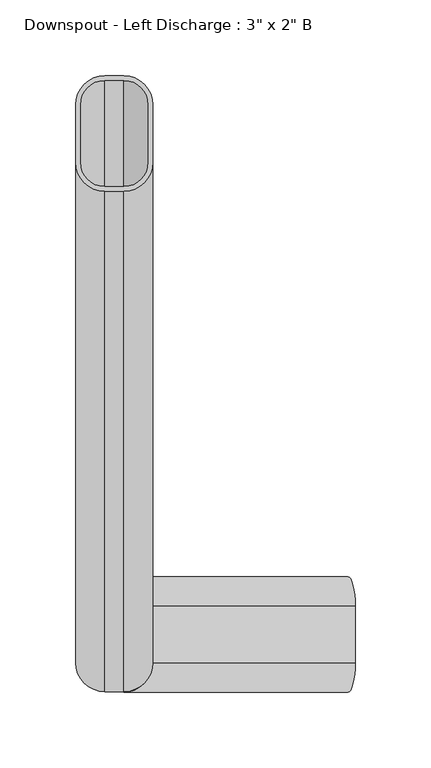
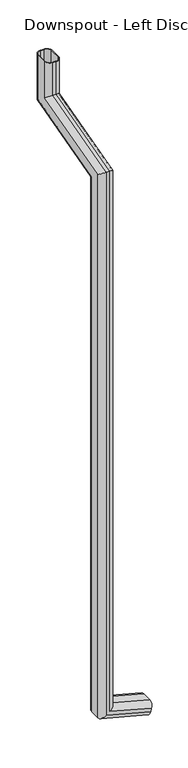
"""IFC4 building model written with IfcOpenShell, lengths in millimetres: proxy geometry."""

from ifc_helpers import new_model, si_unit, frame, origin, place, context, project, spatial, polyline, circle_curve, ellipse_curve, source, transform, mapped, element, save
from ifc_brep_helpers import plane_surface, cylinder_surface, revolved_surface, advanced_brep


def proxy_0893bcb6(model_context):
    return source(origin(), model_context, "Body", "AdvancedBrep", [
        advanced_brep(
        [(158.9740037, 184.15, 176.934516), (154.0435009, 165.1, 158.533629), (150.7564991, 165.1, 146.266371), (145.8259963, 184.15, 127.865484), (145.8259963, 222.25, 127.865484), (150.7564991, 241.3, 146.266371), (154.0435009, 241.3, 158.533629), (158.9740037, 222.25, 176.934516), (158.1522533, 184.15, 173.8677015), (158.1522533, 222.25, 173.8677015), (154.0435009, 238.125, 158.533629), (150.7564991, 238.125, 146.266371), (146.6477467, 222.25, 130.9322985), (146.6477467, 184.15, 130.9322985), (150.7564991, 168.275, 146.266371), (154.0435009, 168.275, 158.533629), (6.35, 165.1, 198.1079833), (25.4, 184.15, 212.7255624), (25.4, 184.15, 2212.1407558), (6.35, 165.1, 2226.7583349), (-25.4, 184.15, 173.7453514), (-6.35, 165.1, 188.3629306), (-6.35, 165.1, 2226.7583349), (-25.4, 184.15, 2212.1407558), (-25.4, 222.25, 173.7453514), (-25.4, 514.35, 2300.6175791), (-25.4, 514.35, 2438.4), (-25.4, 552.45, 2438.4), (-25.4, 552.45, 2271.3824209), (-25.4, 222.25, 2182.9055975), (-6.35, 241.3, 188.3629306), (-6.35, 241.3, 2168.2880184), (25.4, 222.25, 212.7255624), (6.35, 241.3, 198.1079833), (6.35, 241.3, 2168.2880184), (25.4, 222.25, 2182.9055975), (25.4, 552.45, 2271.3824209), (25.4, 552.45, 2438.4), (25.4, 514.35, 2438.4), (25.4, 514.35, 2300.6175791), (22.225, 222.25, 210.2892992), (22.225, 184.15, 210.2892992), (22.225, 184.15, 2212.1407558), (22.225, 514.35, 2300.6175791), (22.225, 514.35, 2438.4), (22.225, 552.45, 2438.4), (22.225, 552.45, 2271.3824209), (22.225, 222.25, 2182.9055975), (6.35, 238.125, 198.1079833), (6.35, 238.125, 2170.7242816), (-22.225, 222.25, 176.1816146), (-6.35, 238.125, 188.3629306), (-6.35, 238.125, 2170.7242816), (-22.225, 222.25, 2182.9055975), (-22.225, 184.15, 176.1816146), (-22.225, 552.45, 2271.3824209), (-22.225, 552.45, 2438.4), (-22.225, 514.35, 2438.4), (-22.225, 514.35, 2300.6175791), (-22.225, 184.15, 2212.1407558), (-6.35, 168.275, 188.3629306), (-6.35, 168.275, 2224.3220717), (6.35, 168.275, 198.1079833), (6.35, 168.275, 2224.3220717), (6.35, 495.3, 2315.2351582), (-6.35, 495.3, 2315.2351582), (-6.35, 571.5, 2256.7648418), (6.35, 571.5, 2256.7648418), (6.35, 568.325, 2259.2011049), (-6.35, 568.325, 2259.2011049), (-6.35, 498.475, 2312.7988951), (6.35, 498.475, 2312.7988951), (6.35, 571.5, 2438.4), (-6.35, 571.5, 2438.4), (-6.35, 495.3, 2438.4), (6.35, 495.3, 2438.4), (6.35, 498.475, 2438.4), (-6.35, 498.475, 2438.4), (-6.35, 568.325, 2438.4), (6.35, 568.325, 2438.4)],
        [
            (0, 1, circle_curve(frame((154.0435009, 184.15, 158.533629), z_axis=(0.9659258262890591, 0.0, -0.25881904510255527), x_axis=(0.0, -1.0, 0.0)), 19.05)),
            (1, 2),
            (2, 3, circle_curve(frame((150.7564991, 184.15, 146.266371), z_axis=(0.9659258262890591, 0.0, -0.25881904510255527), x_axis=(0.0, -1.0, 0.0)), 19.05)),
            (3, 4),
            (4, 5, circle_curve(frame((150.7564991, 222.25, 146.266371), z_axis=(0.9659258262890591, 0.0, -0.25881904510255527), x_axis=(0.0, -1.0, 0.0)), 19.05)),
            (5, 6),
            (6, 7, circle_curve(frame((154.0435009, 222.25, 158.533629), z_axis=(0.9659258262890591, 0.0, -0.25881904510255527), x_axis=(0.0, -1.0, 0.0)), 19.05)),
            (7, 0),
            (8, 9),
            (9, 10, circle_curve(frame((154.0435009, 222.25, 158.533629), z_axis=(-0.9659258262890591, 0.0, 0.25881904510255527), x_axis=(0.0, -1.0, 0.0)), 15.875)),
            (10, 11),
            (11, 12, circle_curve(frame((150.7564991, 222.25, 146.266371), z_axis=(-0.9659258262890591, 0.0, 0.25881904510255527), x_axis=(0.0, -1.0, 0.0)), 15.875)),
            (12, 13),
            (13, 14, circle_curve(frame((150.7564991, 184.15, 146.266371), z_axis=(-0.9659258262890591, 0.0, 0.25881904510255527), x_axis=(0.0, -1.0, 0.0)), 15.875)),
            (14, 15),
            (15, 8, circle_curve(frame((154.0435009, 184.15, 158.533629), z_axis=(-0.9659258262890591, 0.0, 0.25881904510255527), x_axis=(0.0, -1.0, 0.0)), 15.875)),
            (16, 17, ellipse_curve(frame((6.35, 184.15, 198.1079833), z_axis=(-0.6087614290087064, 0.0, 0.793353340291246), x_axis=(-0.7933533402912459, 0.0, -0.6087614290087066)), 24.0119995, 19.05)),
            (17, 18),
            (18, 19, ellipse_curve(frame((6.35, 184.15, 2212.1407558), z_axis=(0.0, -0.6087614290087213, -0.7933533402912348), x_axis=(0.0, 0.7933533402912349, -0.608761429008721)), 24.0119995, 19.05)),
            (19, 16),
            (20, 21, ellipse_curve(frame((-6.35, 184.15, 188.3629306), z_axis=(-0.6087614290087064, 0.0, 0.793353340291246), x_axis=(-0.7933533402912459, 0.0, -0.6087614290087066)), 24.0119995, 19.05)),
            (21, 22),
            (22, 23, ellipse_curve(frame((-6.35, 184.15, 2212.1407558), z_axis=(0.0, -0.6087614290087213, -0.7933533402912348), x_axis=(0.0, 0.7933533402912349, -0.608761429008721)), 24.0119995, 19.05)),
            (23, 20),
            (24, 20),
            (23, 25),
            (25, 26),
            (26, 27),
            (27, 28),
            (28, 29),
            (29, 24),
            (30, 24, ellipse_curve(frame((-6.35, 222.25, 188.3629306), z_axis=(-0.6087614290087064, 0.0, 0.793353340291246), x_axis=(-0.7933533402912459, 0.0, -0.6087614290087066)), 24.0119995, 19.05)),
            (29, 31, ellipse_curve(frame((-6.35, 222.25, 2182.9055975), z_axis=(0.0, -0.6087614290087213, -0.7933533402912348), x_axis=(0.0, 0.7933533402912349, -0.608761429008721)), 24.0119995, 19.05)),
            (31, 30),
            (32, 33, ellipse_curve(frame((6.35, 222.25, 198.1079833), z_axis=(-0.6087614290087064, 0.0, 0.793353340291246), x_axis=(-0.7933533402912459, 0.0, -0.6087614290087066)), 24.0119995, 19.05)),
            (33, 34),
            (34, 35, ellipse_curve(frame((6.35, 222.25, 2182.9055975), z_axis=(0.0, -0.6087614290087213, -0.7933533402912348), x_axis=(0.0, 0.7933533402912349, -0.608761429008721)), 24.0119995, 19.05)),
            (35, 32),
            (17, 32),
            (35, 36),
            (36, 37),
            (37, 38),
            (38, 39),
            (39, 18),
            (40, 41),
            (41, 42),
            (42, 43),
            (43, 44),
            (44, 45),
            (45, 46),
            (46, 47),
            (47, 40),
            (48, 40, ellipse_curve(frame((6.35, 222.25, 198.1079833), z_axis=(0.6087614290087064, 0.0, -0.793353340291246), x_axis=(0.7933533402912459, 0.0, 0.6087614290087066)), 20.0099996, 15.875)),
            (47, 49, ellipse_curve(frame((6.35, 222.25, 2182.9055975), z_axis=(0.0, 0.6087614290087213, 0.7933533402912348), x_axis=(0.0, -0.7933533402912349, 0.608761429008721)), 20.0099996, 15.875)),
            (49, 48),
            (50, 51, ellipse_curve(frame((-6.35, 222.25, 188.3629306), z_axis=(0.6087614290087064, 0.0, -0.793353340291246), x_axis=(0.7933533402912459, 0.0, 0.6087614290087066)), 20.0099996, 15.875)),
            (51, 52),
            (52, 53, ellipse_curve(frame((-6.35, 222.25, 2182.9055975), z_axis=(0.0, 0.6087614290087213, 0.7933533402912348), x_axis=(0.0, -0.7933533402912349, 0.608761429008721)), 20.0099996, 15.875)),
            (53, 50),
            (54, 50),
            (53, 55),
            (55, 56),
            (56, 57),
            (57, 58),
            (58, 59),
            (59, 54),
            (60, 54, ellipse_curve(frame((-6.35, 184.15, 188.3629306), z_axis=(0.6087614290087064, 0.0, -0.793353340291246), x_axis=(0.7933533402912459, 0.0, 0.6087614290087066)), 20.0099996, 15.875)),
            (59, 61, ellipse_curve(frame((-6.35, 184.15, 2212.1407558), z_axis=(0.0, 0.6087614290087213, 0.7933533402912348), x_axis=(0.0, -0.7933533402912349, 0.608761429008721)), 20.0099996, 15.875)),
            (61, 60),
            (41, 62, ellipse_curve(frame((6.35, 184.15, 198.1079833), z_axis=(0.6087614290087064, 0.0, -0.793353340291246), x_axis=(0.7933533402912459, 0.0, 0.6087614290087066)), 20.0099996, 15.875)),
            (62, 63),
            (63, 42, ellipse_curve(frame((6.35, 184.15, 2212.1407558), z_axis=(0.0, 0.6087614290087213, 0.7933533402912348), x_axis=(0.0, -0.7933533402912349, 0.608761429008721)), 20.0099996, 15.875)),
            (39, 64, ellipse_curve(frame((6.35, 514.35, 2300.6175791), z_axis=(0.0, -0.6087614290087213, -0.7933533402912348), x_axis=(0.0, -0.7933533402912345, 0.6087614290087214)), 24.0119995, 19.05)),
            (64, 19),
            (22, 19),
            (64, 65),
            (65, 22),
            (65, 25, ellipse_curve(frame((-6.35, 514.35, 2300.6175791), z_axis=(0.0, -0.6087614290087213, -0.7933533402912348), x_axis=(0.0, -0.7933533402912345, 0.6087614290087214)), 24.0119995, 19.05)),
            (28, 66, ellipse_curve(frame((-6.35, 552.45, 2271.3824209), z_axis=(0.0, -0.6087614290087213, -0.7933533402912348), x_axis=(0.0, -0.7933533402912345, 0.6087614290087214)), 24.0119995, 19.05)),
            (66, 31),
            (34, 31),
            (66, 67),
            (67, 34),
            (67, 36, ellipse_curve(frame((6.35, 552.45, 2271.3824209), z_axis=(0.0, -0.6087614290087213, -0.7933533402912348), x_axis=(0.0, -0.7933533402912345, 0.6087614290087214)), 24.0119995, 19.05)),
            (46, 68, ellipse_curve(frame((6.35, 552.45, 2271.3824209), z_axis=(0.0, 0.6087614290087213, 0.7933533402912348), x_axis=(0.0, 0.7933533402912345, -0.6087614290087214)), 20.0099996, 15.875)),
            (68, 49),
            (52, 49),
            (68, 69),
            (69, 52),
            (69, 55, ellipse_curve(frame((-6.35, 552.45, 2271.3824209), z_axis=(0.0, 0.6087614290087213, 0.7933533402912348), x_axis=(0.0, 0.7933533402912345, -0.6087614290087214)), 20.0099996, 15.875)),
            (58, 70, ellipse_curve(frame((-6.35, 514.35, 2300.6175791), z_axis=(0.0, 0.6087614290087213, 0.7933533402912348), x_axis=(0.0, 0.7933533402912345, -0.6087614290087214)), 20.0099996, 15.875)),
            (70, 61),
            (63, 61),
            (70, 71),
            (71, 63),
            (71, 43, ellipse_curve(frame((6.35, 514.35, 2300.6175791), z_axis=(0.0, 0.6087614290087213, 0.7933533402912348), x_axis=(0.0, 0.7933533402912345, -0.6087614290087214)), 20.0099996, 15.875)),
            (37, 72, circle_curve(frame((6.35, 552.45, 2438.4), z_axis=(0.0, 0.0, 1.0), x_axis=(0.0, -1.0, 0.0)), 19.05)),
            (72, 73),
            (73, 27, circle_curve(frame((-6.35, 552.45, 2438.4), z_axis=(0.0, 0.0, 1.0), x_axis=(0.0, -1.0, 0.0)), 19.05)),
            (26, 74, circle_curve(frame((-6.35, 514.35, 2438.4), z_axis=(0.0, 0.0, 1.0), x_axis=(0.0, -1.0, 0.0)), 19.05)),
            (74, 75),
            (75, 38, circle_curve(frame((6.35, 514.35, 2438.4), z_axis=(0.0, 0.0, 1.0), x_axis=(0.0, -1.0, 0.0)), 19.05)),
            (44, 76, circle_curve(frame((6.35, 514.35, 2438.4), z_axis=(0.0, 0.0, -1.0), x_axis=(0.0, -1.0, 0.0)), 15.875)),
            (76, 77),
            (77, 57, circle_curve(frame((-6.35, 514.35, 2438.4), z_axis=(0.0, 0.0, -1.0), x_axis=(0.0, -1.0, 0.0)), 15.875)),
            (56, 78, circle_curve(frame((-6.35, 552.45, 2438.4), z_axis=(0.0, 0.0, -1.0), x_axis=(0.0, -1.0, 0.0)), 15.875)),
            (78, 79),
            (79, 45, circle_curve(frame((6.35, 552.45, 2438.4), z_axis=(0.0, 0.0, -1.0), x_axis=(0.0, -1.0, 0.0)), 15.875)),
            (75, 64),
            (74, 65),
            (73, 66),
            (72, 67),
            (79, 68),
            (78, 69),
            (77, 70),
            (76, 71),
            (0, 17),
            (16, 1),
            (21, 2),
            (20, 3),
            (24, 4),
            (30, 5),
            (33, 6),
            (32, 7),
            (8, 41),
            (40, 9),
            (48, 10),
            (51, 11),
            (50, 12),
            (54, 13),
            (60, 14),
            (62, 15),
        ],
        [
            plane_surface(frame((152.4, 164.5744579, 152.4), z_axis=(0.9659258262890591, 0.0, -0.25881904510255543), x_axis=(0.25881904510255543, 0.0, 0.9659258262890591))),
            cylinder_surface(frame((6.35, 184.15, 193.2354569), z_axis=(0.0, 0.0, -1.0), x_axis=(0.0, -1.0, 0.0)), 19.05),
            cylinder_surface(frame((-6.35, 184.15, 193.2354569), z_axis=(0.0, 0.0, -1.0), x_axis=(0.0, -1.0, 0.0)), 19.05),
            plane_surface(frame((-25.4, 184.15, 173.7453514), z_axis=(-1.0, 0.0, 0.0), x_axis=(0.0, 0.0, 1.0))),
            cylinder_surface(frame((-6.35, 222.25, 193.2354569), z_axis=(0.0, 0.0, -1.0), x_axis=(0.0, -1.0, 0.0)), 19.05),
            cylinder_surface(frame((6.35, 222.25, 193.2354569), z_axis=(0.0, 0.0, -1.0), x_axis=(0.0, -1.0, 0.0)), 19.05),
            plane_surface(frame((25.4, 222.25, 212.7255624), z_axis=(1.0, 0.0, 0.0), x_axis=(0.0, 0.0, 1.0))),
            plane_surface(frame((22.225, 184.15, 210.2892992), z_axis=(-1.0, 0.0, 0.0), x_axis=(0.0, 0.0, 1.0))),
            revolved_surface(polyline([(6.35, 206.375, 2195.0869134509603), (6.35, 206.375, 185.92666734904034)]), (6.35, 222.25, 193.2354569), (0.0, 0.0, 1.0)),
            revolved_surface(polyline([(-6.35, 206.375, 2195.0869134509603), (-6.35, 206.375, 176.1816146)]), (-6.35, 222.25, 193.2354569), (0.0, 0.0, 1.0)),
            plane_surface(frame((-22.225, 222.25, 176.1816146), z_axis=(1.0, 0.0, 0.0), x_axis=(0.0, 0.0, 1.0))),
            revolved_surface(polyline([(-6.35, 168.275, 2224.3220717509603), (-6.35, 168.275, 176.1816146)]), (-6.35, 184.15, 193.2354569), (0.0, 0.0, 1.0)),
            revolved_surface(polyline([(6.35, 168.275, 2224.3220717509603), (6.35, 168.275, 185.92666734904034)]), (6.35, 184.15, 193.2354569), (0.0, 0.0, 1.0)),
            cylinder_surface(frame((6.35, 198.2694972, 2215.9240637), z_axis=(0.0, -0.9659258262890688, -0.2588190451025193), x_axis=(0.0, -0.2588190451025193, 0.9659258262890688)), 19.05),
            plane_surface(frame((6.35, 165.1, 2226.7583349), z_axis=(0.0, -0.2588190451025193, 0.9659258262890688), x_axis=(0.0, 0.9659258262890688, 0.2588190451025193))),
            cylinder_surface(frame((-6.35, 198.2694972, 2215.9240637), z_axis=(0.0, -0.9659258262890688, -0.2588190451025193), x_axis=(0.0, -0.2588190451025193, 0.9659258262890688)), 19.05),
            cylinder_surface(frame((-6.35, 208.1305028, 2179.1222897), z_axis=(0.0, -0.9659258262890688, -0.2588190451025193), x_axis=(0.0, -0.2588190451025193, 0.9659258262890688)), 19.05),
            plane_surface(frame((-6.35, 241.3, 2168.2880184), z_axis=(0.0, 0.2588190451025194, -0.9659258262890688), x_axis=(0.0, 0.9659258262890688, 0.2588190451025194))),
            cylinder_surface(frame((6.35, 208.1305028, 2179.1222897), z_axis=(0.0, -0.9659258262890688, -0.2588190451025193), x_axis=(0.0, -0.2588190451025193, 0.9659258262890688)), 19.05),
            revolved_surface(polyline([(6.35, 560.1074953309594, 2289.8692499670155), (6.35, 206.37499996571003, 2195.0869134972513)]), (6.35, 208.1305028, 2179.1222897), (0.0, 0.9659258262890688, 0.2588190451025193)),
            plane_surface(frame((6.35, 238.125, 2170.7242816), z_axis=(0.0, -0.2588190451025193, 0.9659258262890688), x_axis=(0.0, 0.9659258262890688, 0.2588190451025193))),
            revolved_surface(polyline([(-6.35, 560.1074953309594, 2289.8692499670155), (-6.35, 206.37499996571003, 2195.0869134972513)]), (-6.35, 208.1305028, 2179.1222897), (0.0, 0.9659258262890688, 0.2588190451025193)),
            revolved_surface(polyline([(-6.35, 522.0074953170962, 2319.1044082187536), (-6.35, 168.27499997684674, 2224.3220717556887)]), (-6.35, 198.2694972, 2215.9240637), (0.0, 0.9659258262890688, 0.2588190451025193)),
            plane_surface(frame((-6.35, 168.275, 2224.3220717), z_axis=(0.0, 0.2588190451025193, -0.9659258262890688), x_axis=(0.0, 0.9659258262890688, 0.2588190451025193))),
            revolved_surface(polyline([(6.35, 522.0074953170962, 2319.1044082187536), (6.35, 168.27499997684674, 2224.3220717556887)]), (6.35, 198.2694972, 2215.9240637), (0.0, 0.9659258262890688, 0.2588190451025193)),
            plane_surface(frame((0.0, 494.7744579, 2438.4), z_axis=(0.0, 0.0, 1.0), x_axis=(1.0, 0.0, 0.0))),
            cylinder_surface(frame((6.35, 514.35, 2286.0), z_axis=(0.0, 0.0, -1.0), x_axis=(0.0, -1.0, 0.0)), 19.05),
            plane_surface(frame((6.35, 495.3, 2315.2351582), z_axis=(0.0, -1.0, 0.0), x_axis=(0.0, 0.0, 1.0))),
            cylinder_surface(frame((-6.35, 514.35, 2286.0), z_axis=(0.0, 0.0, -1.0), x_axis=(0.0, -1.0, 0.0)), 19.05),
            cylinder_surface(frame((-6.35, 552.45, 2286.0), z_axis=(0.0, 0.0, -1.0), x_axis=(0.0, -1.0, 0.0)), 19.05),
            plane_surface(frame((-6.35, 571.5, 2256.7648418), z_axis=(0.0, 1.0, 0.0), x_axis=(0.0, 0.0, 1.0))),
            cylinder_surface(frame((6.35, 552.45, 2286.0), z_axis=(0.0, 0.0, -1.0), x_axis=(0.0, -1.0, 0.0)), 19.05),
            revolved_surface(polyline([(6.35, 536.575, 2438.4), (6.35, 536.575, 2259.2011049)]), (6.35, 552.45, 2286.0), (0.0, 0.0, 1.0)),
            plane_surface(frame((6.35, 568.325, 2259.2011049), z_axis=(0.0, -1.0, 0.0), x_axis=(0.0, 0.0, 1.0))),
            revolved_surface(polyline([(-6.35, 536.575, 2438.4), (-6.35, 536.575, 2259.2011049)]), (-6.35, 552.45, 2286.0), (0.0, 0.0, 1.0)),
            revolved_surface(polyline([(-6.35, 498.475, 2438.4), (-6.35, 498.475, 2288.4362631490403)]), (-6.35, 514.35, 2286.0), (0.0, 0.0, 1.0)),
            plane_surface(frame((-6.35, 498.475, 2312.7988951), z_axis=(0.0, 1.0, 0.0), x_axis=(0.0, 0.0, 1.0))),
            revolved_surface(polyline([(6.35, 498.475, 2438.4), (6.35, 498.475, 2288.4362631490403)]), (6.35, 514.35, 2286.0), (0.0, 0.0, 1.0)),
            cylinder_surface(frame((154.0435009, 184.15, 158.533629), z_axis=(0.9659258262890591, 0.0, -0.25881904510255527), x_axis=(0.0, -1.0, 0.0)), 19.05),
            plane_surface(frame((154.0435009, 165.1, 158.533629), z_axis=(0.0, -1.0000000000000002, 0.0), x_axis=(-0.9659258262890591, 0.0, 0.2588190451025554))),
            cylinder_surface(frame((150.7564991, 184.15, 146.266371), z_axis=(0.9659258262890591, 0.0, -0.25881904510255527), x_axis=(0.0, -1.0, 0.0)), 19.05),
            plane_surface(frame((145.8259963, 184.15, 127.865484), z_axis=(-0.2588190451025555, 0.0, -0.9659258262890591), x_axis=(-0.9659258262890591, 0.0, 0.2588190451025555))),
            cylinder_surface(frame((150.7564991, 222.25, 146.266371), z_axis=(0.9659258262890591, 0.0, -0.25881904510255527), x_axis=(0.0, -1.0, 0.0)), 19.05),
            plane_surface(frame((150.7564991, 241.3, 146.266371), z_axis=(0.0, 1.0000000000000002, 0.0), x_axis=(-0.9659258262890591, 0.0, 0.2588190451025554))),
            cylinder_surface(frame((154.0435009, 222.25, 158.533629), z_axis=(0.9659258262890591, 0.0, -0.25881904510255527), x_axis=(0.0, -1.0, 0.0)), 19.05),
            plane_surface(frame((158.9740037, 222.25, 176.934516), z_axis=(0.2588190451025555, 0.0, 0.965925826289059), x_axis=(-0.965925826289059, 0.0, 0.2588190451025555))),
            plane_surface(frame((158.1522533, 184.15, 173.8677015), z_axis=(-0.2588190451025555, 0.0, -0.965925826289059), x_axis=(-0.965925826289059, 0.0, 0.2588190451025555))),
            revolved_surface(polyline([(-5.416247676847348, 206.375, 201.2607398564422), (154.0435009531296, 206.375, 158.53362898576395)]), (154.0435009, 222.25, 158.533629), (-0.9659258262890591, 0.0, 0.25881904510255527)),
            plane_surface(frame((154.0435009, 238.125, 158.533629), z_axis=(0.0, -1.0, 0.0), x_axis=(-0.9659258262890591, 0.0, 0.25881904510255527))),
            revolved_surface(polyline([(-18.11624768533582, 206.375, 191.51568712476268), (150.7564991, 206.375, 146.266371)]), (150.7564991, 222.25, 146.266371), (-0.9659258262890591, 0.0, 0.25881904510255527)),
            plane_surface(frame((146.6477467, 222.25, 130.9322985), z_axis=(0.25881904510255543, 0.0, 0.9659258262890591), x_axis=(-0.9659258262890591, 0.0, 0.25881904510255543))),
            revolved_surface(polyline([(-18.11624768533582, 168.275, 191.51568712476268), (150.7564991, 168.275, 146.266371)]), (150.7564991, 184.15, 146.266371), (-0.9659258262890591, 0.0, 0.25881904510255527)),
            plane_surface(frame((150.7564991, 168.275, 146.266371), z_axis=(0.0, 1.0000000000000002, 0.0), x_axis=(-0.9659258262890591, 0.0, 0.2588190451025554))),
            revolved_surface(polyline([(-5.416247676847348, 168.275, 201.2607398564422), (154.0435009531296, 168.275, 158.53362898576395)]), (154.0435009, 184.15, 158.533629), (-0.9659258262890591, 0.0, 0.25881904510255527)),
        ],
        [
            (0, [[1, 2, 3, 4, 5, 6, 7, 8], [9, 10, 11, 12, 13, 14, 15, 16]]),
            (1, [[17, 18, 19, 20]]),
            (2, [[21, 22, 23, 24]]),
            (3, [[25, -24, 26, 27, 28, 29, 30, 31]]),
            (4, [[32, -31, 33, 34]]),
            (5, [[35, 36, 37, 38]]),
            (6, [[39, -38, 40, 41, 42, 43, 44, -18]]),
            (7, [[45, 46, 47, 48, 49, 50, 51, 52]]),
            (8, [[53, -52, 54, 55]]),
            (9, [[56, 57, 58, 59]]),
            (10, [[60, -59, 61, 62, 63, 64, 65, 66]]),
            (11, [[67, -66, 68, 69]]),
            (12, [[70, 71, 72, -46]]),
            (13, [[-19, -44, 73, 74]]),
            (14, [[75, -74, 76, 77]]),
            (15, [[-23, -77, 78, -26]]),
            (16, [[-33, -30, 79, 80]]),
            (17, [[81, -80, 82, 83]]),
            (18, [[-37, -83, 84, -40]]),
            (19, [[-54, -51, 85, 86]]),
            (20, [[87, -86, 88, 89]]),
            (21, [[-58, -89, 90, -61]]),
            (22, [[-68, -65, 91, 92]]),
            (23, [[93, -92, 94, 95]]),
            (24, [[-72, -95, 96, -47]]),
            (25, [[-42, 97, 98, 99, -28, 100, 101, 102], [103, 104, 105, -63, 106, 107, 108, -49]]),
            (26, [[-73, -43, -102, 109]]),
            (27, [[-76, -109, -101, 110]]),
            (28, [[-78, -110, -100, -27]]),
            (29, [[-79, -29, -99, 111]]),
            (30, [[-82, -111, -98, 112]]),
            (31, [[-84, -112, -97, -41]]),
            (32, [[-85, -50, -108, 113]]),
            (33, [[-88, -113, -107, 114]]),
            (34, [[-90, -114, -106, -62]]),
            (35, [[-91, -64, -105, 115]]),
            (36, [[-94, -115, -104, 116]]),
            (37, [[-96, -116, -103, -48]]),
            (38, [[-1, 117, -17, 118]]),
            (39, [[-2, -118, -20, -75, -22, 119]]),
            (40, [[-3, -119, -21, 120]]),
            (41, [[-4, -120, -25, 121]]),
            (42, [[-5, -121, -32, 122]]),
            (43, [[-6, -122, -34, -81, -36, 123]]),
            (44, [[-7, -123, -35, 124]]),
            (45, [[-8, -124, -39, -117]]),
            (46, [[-9, 125, -45, 126]]),
            (47, [[-10, -126, -53, 127]]),
            (48, [[-11, -127, -55, -87, -57, 128]]),
            (49, [[-12, -128, -56, 129]]),
            (50, [[-13, -129, -60, 130]]),
            (51, [[-14, -130, -67, 131]]),
            (52, [[-15, -131, -69, -93, -71, 132]]),
            (53, [[-16, -132, -70, -125]]),
        ],
    ),
    ])


if __name__ == "__main__":
    model = new_model("IFC4")
    model_context = context("Model", 3, world=origin())
    ifc_project = project(units=[si_unit("LENGTHUNIT", "METRE", prefix="MILLI")], contexts=[model_context])
    site = spatial("IfcSite", under=ifc_project)
    building = spatial("IfcBuilding", under=site)
    placement = place(None, origin())
    proxy_shape = proxy_0893bcb6(model_context)
    element("IfcBuildingElementProxy", 1, Name="Downspout - Left Discharge : 3\" x 2\" B", ObjectType="Downspout - Left Discharge : 3\" x 2\" B", at=placement, inside=building, context=model_context, shape_type="MappedRepresentation", body=[
        mapped(proxy_shape, transform((0.0, 0.0, 0.0), x_axis=(1.0, 0.0, 0.0), y_axis=(0.0, 1.0, 0.0), z_axis=(0.0, 0.0, 1.0))),
    ])
    save(model, "model.ifc")
